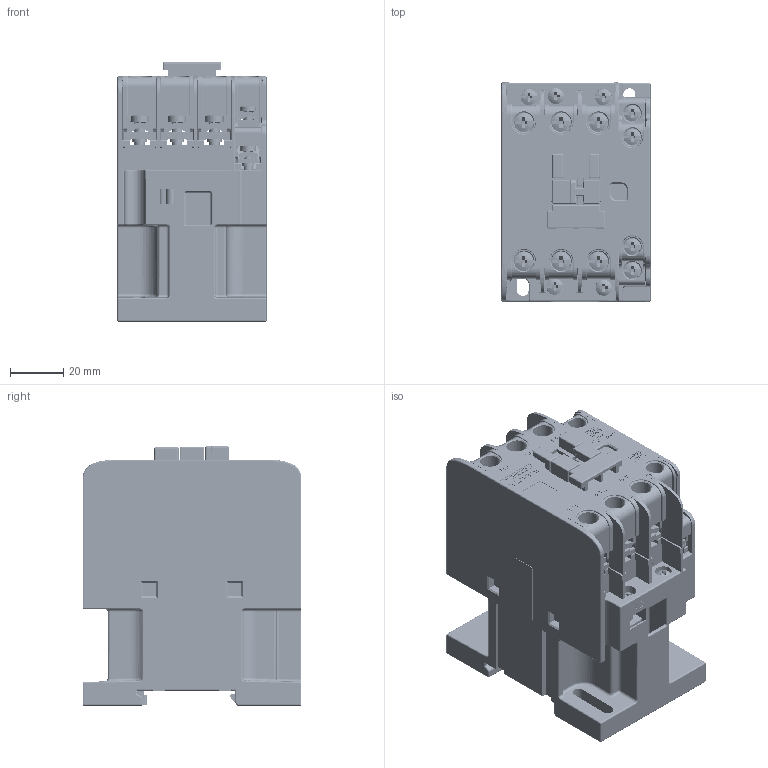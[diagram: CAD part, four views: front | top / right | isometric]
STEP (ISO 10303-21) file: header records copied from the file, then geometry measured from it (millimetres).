
FILE_DESCRIPTION (( 'STEP AP214' ), '1' );
FILE_NAME ('tengen_1N_TGC1_3P_2511-3811(A.1).STEP', '2026-01-30T10:20:22', ( '' ), ( '' ), 'SwSTEP 2.0', 'SolidWorks 2024', '' );
FILE_SCHEMA (( 'AUTOMOTIVE_DESIGN' ));
Length unit declared in the file: millimetre
Products named in the file (154): 8TZD_550_1293_AF5.stp; 5TZD_024_1290_AF0_ASM.stp; 8TZD_550_1292_AF3.stp; 8TZD_600_3004_AF31.stp; 5TZD_553_1121_AF2_ASM.stp; 5TZD_612_3003_AF0_ASM.stp; 8TZD_600_3004_AF13.stp; 8TZD_553_1068_AF2.stp; tengen_1N_TGC1_3P_2511-3811(A.1).stp; 8TZD_600_3003_AF49.stp; 8TZD_600_3004_AF22.stp; 8TZD_553_1068_AF1.stp; 8TZD_969_3003_AF8.stp; 8TZD_104_1091_AF0.stp; 8TZD_557_1236_AF0.stp; 8TZD_600_3004_AF26.stp; 8TZD_550_1419_AF6.stp; 8TZD_261_1035_1.stp; 8TZD_024_1396_AF0.stp; 8TZD_969_3003_AF11.stp; 8TZD_128_1056.stp; 8TZD_550_1418_AF5.stp; 5TZD_557_1018_AF0_ASM_1.stp; 8TZD_282_1202_AF0.stp; 8TZD_550_1419_AF5.stp; 8TZD_600_3004_AF19.stp; 8TZD_732_1087_AF0.stp; 8TZD_969_3003_AF10.stp; 8TZD_600_3004_AF6.stp; GB-T845-ST2_9X14-C.stp; 5TZD_557_1038_AF0_ASM_1.stp; 8TZD_282_1191_AF17.stp; 8TZD_596_1008_AF3.stp; 8TZD_282_1201_AF6.stp; 8TZD_600_3004_AF24.stp; 8TZD_600_3003_AF60.stp; 5TZD_557_1041_AF0_ASM.stp; 8TZD_282_1201_AF3.stp; 8TZD_550_1293_AF4.stp; 8TZD_600_3003_AF55.stp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
Assembly tree (167 placements, depth 6):
  tengen_1N_TGC1_3P_2511-3811(A.1)
    tengen_1N_TGC1_3P_2511-3811(A.1).stp
      5TZD_022_1061_AF0_ASM.stp
        5TZD_612_3003_AF0_ASM.stp
          8TZD_600_3003_AF33.stp
          8TZD_600_3003_AF34.stp
          8TZD_600_3003_AF35.stp
          8TZD_600_3003_AF36.stp
          8TZD_600_3003_AF37.stp
          8TZD_600_3003_AF38.stp
          8TZD_600_3003_AF39.stp
          8TZD_600_3003_AF40.stp
          8TZD_600_3003_AF41.stp
          8TZD_600_3003_AF42.stp
          8TZD_600_3003_AF43.stp
          8TZD_600_3003_AF44.stp
          8TZD_600_3003_AF45.stp
          8TZD_600_3003_AF46.stp
          8TZD_600_3003_AF47.stp
          8TZD_600_3003_AF48.stp
          8TZD_600_3003_AF49.stp
          8TZD_600_3003_AF50.stp
          8TZD_600_3003_AF51.stp
          8TZD_600_3003_AF52.stp
          8TZD_600_3003_AF53.stp
          8TZD_600_3003_AF54.stp
          8TZD_600_3003_AF55.stp
          8TZD_600_3003_AF56.stp
          8TZD_600_3003_AF57.stp
          8TZD_600_3003_AF58.stp
          8TZD_600_3003_AF59.stp
          8TZD_600_3003_AF60.stp
          8TZD_600_3003_AF61.stp
          8TZD_600_3003_AF62.stp
          8TZD_600_3003_AF63.stp
          8TZD_600_3003_AF64.stp
          8TZD_600_3003_AF65.stp
          8TZD_969_3003_AF8.stp
          8TZD_969_3003_AF9.stp
          8TZD_548_3002_AF0.stp
          8TZD_548_3002_AF1.stp
        5TZD_520_1082_AF0_ASM.stp
          8TZD_732_1087_AF0.stp
          8TZD_516_1059_AF0.stp
          8TZD_516_1058_AF0.stp
          8TZD_520_1019_AF0.stp
        8TZD_022_1077_AF0.stp
        8TZD_261_1035_1.stp
        8TZD_282_1191_AF17.stp
        8TZD_128_1056.stp
        8TZD_194_3002.stp
        8TZD_128_1050.stp  x2
        Q_TZJ0303_3-M3_5X9_5_4.stp  x3
      5TZD_024_1290_AF0_ASM.stp
        5TZD_104_1104_AF0_ASM.stp
          5TZD_553_1121_AF0_ASM.stp
            8TZD_553_1068_AF0.stp
            8TZD_550_1418_AF2.stp
          5TZD_553_1121_AF1_ASM.stp
            8TZD_553_1068_AF1.stp
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Bounding box: 56.4 x 82.2 x 97.5 mm (x, y, z)
Volume: 125000.1 mm3; surface area: 227220.4 mm2
Topology: 175 solids, 230 shells, 12956 faces, 35136 edges, 22674 vertices
Faces by surface type: plane 9026, cylinder 3114, torus 249, sphere 229, bspline 216, cone 122
Entity records: 415897 total; most frequent: CARTESIAN_POINT 103298, ORIENTED_EDGE 65404, DIRECTION 61358, EDGE_CURVE 32734, LINE 25780, VECTOR 25780, VERTEX_POINT 21241, AXIS2_PLACEMENT_3D 17789
